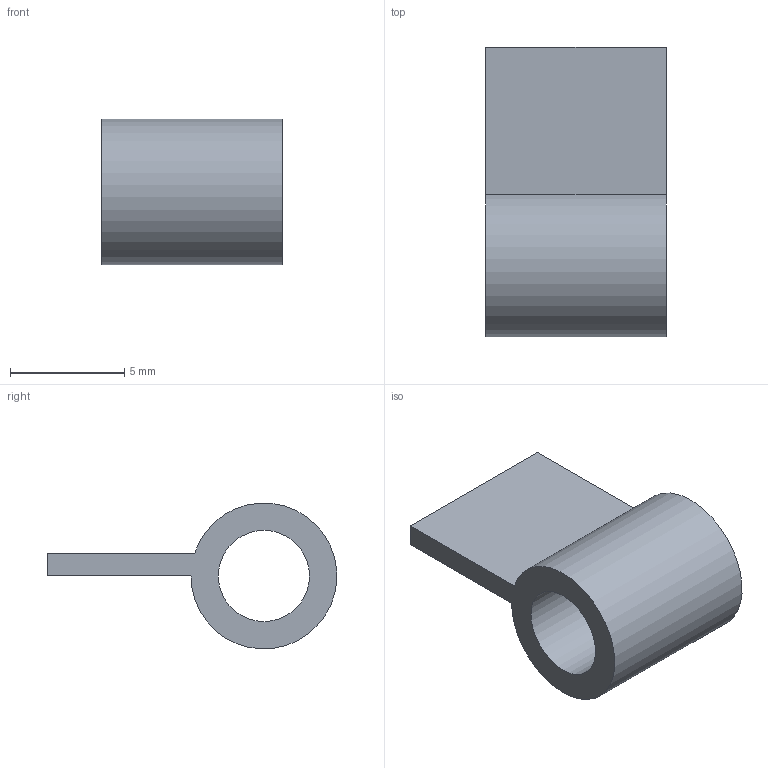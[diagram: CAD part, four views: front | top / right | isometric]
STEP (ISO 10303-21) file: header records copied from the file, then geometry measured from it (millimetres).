
FILE_DESCRIPTION(('Open CASCADE Model'),'2;1');
FILE_NAME('Open CASCADE Shape Model','2026-11-25T12:49:16',('Author'),( 'Open CASCADE'),'Open CASCADE STEP processor 8.0','Open CASCADE 8.0' ,'Unknown');
FILE_SCHEMA(('AP242_MANAGED_MODEL_BASED_3D_ENGINEERING_MIM_LF {1 0 10303 442 1 1 4 }' ));
Length unit declared in the file: millimetre
Products named in the file (1): Hinge leaf A
Bounding box: 7.9 x 12.69 x 6.39 mm (x, y, z)
Volume: 205.1 mm3; surface area: 410.7 mm2
Topology: 1 solids, 1 shells, 7 faces, 15 edges, 10 vertices
Faces by surface type: plane 5, cylinder 2
Full cylindrical faces by diameter (mm): 4 x1
Entity records: 409 total; most frequent: CARTESIAN_POINT 65, DIRECTION 63, LINE 35, VECTOR 35, ORIENTED_EDGE 30, PCURVE 30, DEFINITIONAL_REPRESENTATION 30, EDGE_CURVE 15
